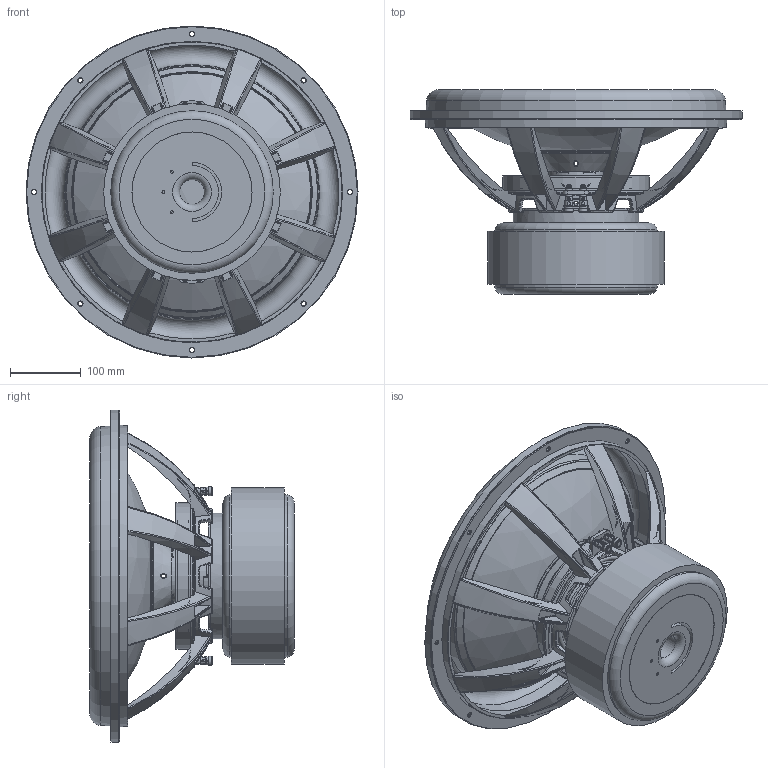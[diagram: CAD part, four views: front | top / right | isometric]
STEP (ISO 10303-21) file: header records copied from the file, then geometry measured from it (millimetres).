
FILE_DESCRIPTION(/* description */ (''),/* implementation_level */ '2;1');
FILE_NAME(/* name */ 'SS18-22.step',/* time_stamp */ '2026-09-11T12:00:36-04:00',/* author */ (''),/* organization */ (''),/* preprocessor_version */ 'ST-DEVELOPER v20.1',/* originating_system */ 'Autodesk Translation Framework v15.8.0.0',/* authorisation */ '');
FILE_SCHEMA (('AUTOMOTIVE_DESIGN { 1 0 10303 214 3 1 1 }'));
Products named in the file (3): 2026-09-11-11-30-11-813; AL_75_18CH_1_01_V1; 2026-09-11-11-29-30-797
Assembly tree (2 placements, depth 3):
  2026-09-11-11-30-11-813
    AL_75_18CH_1_01_V1
      2026-09-11-11-29-30-797
Bounding box: 470 x 289.5 x 470 mm (x, y, z)
Volume: 6264467.8 mm3; surface area: 1261585.5 mm2
Topology: 1 solids, 1 shells, 1431 faces, 3768 edges, 2423 vertices
Faces by surface type: cylinder 462, plane 426, bspline 312, torus 130, cone 99, sphere 2
Full cylindrical faces by diameter (mm): 2.2 x8, 4 x115, 4.3 x2, 4.5 x12, 5 x12, 5.5 x6, 6 x17, 6.2 x4, 6.3 x4, 6.5 x18, 7.5 x8, 8 x4, 9.3 x8, 9.7 x4, 10 x4, 11.5 x8, 12.8 x4, 35 x1, 74.85 x1, 75.5 x2, 75.8 x4, 78.8 x1, 85.5 x1, 111.5 x1, 120 x1, 169.7 x1, 170 x1, 178 x1, 190 x2, 204 x2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
Entity records: 106239 total; most frequent: CARTESIAN_POINT 73057, ORIENTED_EDGE 7536, DIRECTION 6102, EDGE_CURVE 3768, AXIS2_PLACEMENT_3D 2472, VERTEX_POINT 2423, EDGE_LOOP 1620, FACE_OUTER_BOUND 1431
